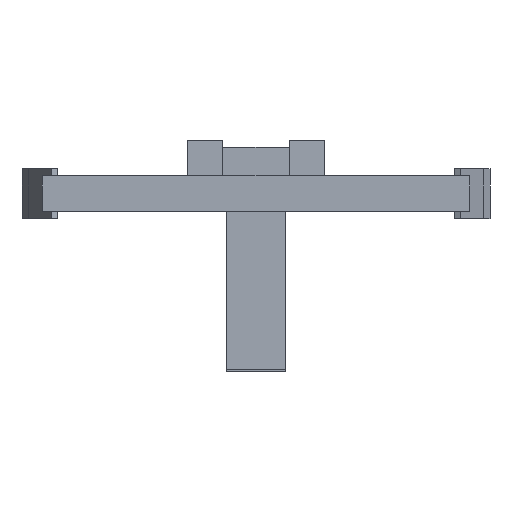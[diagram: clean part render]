
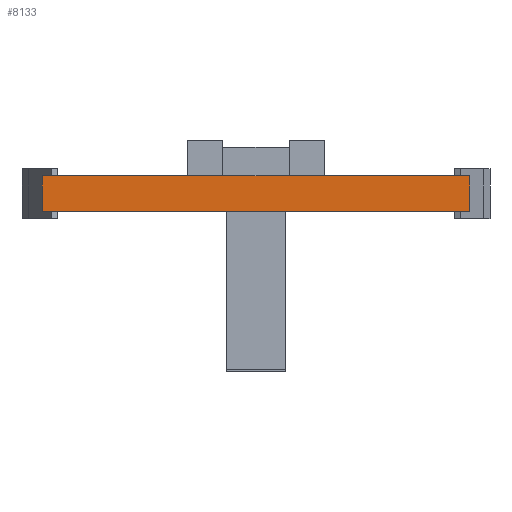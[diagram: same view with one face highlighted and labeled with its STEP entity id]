
A CAD part, front view. The second image highlights one B-rep face of the part: STEP entity #8133.
In plain terms, the highlighted planar face has unit normal (0, -1, 0).
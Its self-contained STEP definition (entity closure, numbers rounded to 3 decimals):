
#5=DIRECTION('',(1.,0.,0.));
#6=VECTOR('',#5,56.);
#7=CARTESIAN_POINT('',(-28.,125.,0.));
#8=LINE('',#7,#6);
#1109=DIRECTION('',(-1.,0.,0.));
#1110=VECTOR('',#1109,152.);
#1111=CARTESIAN_POINT('',(-28.,125.,0.));
#1112=LINE('',#1111,#1110);
#1137=DIRECTION('',(-1.,0.,0.));
#1138=VECTOR('',#1137,152.);
#1139=CARTESIAN_POINT('',(180.,125.,0.));
#1140=LINE('',#1139,#1138);
#1181=DIRECTION('',(0.,0.,-1.));
#1182=VECTOR('',#1181,30.);
#1183=CARTESIAN_POINT('',(-180.,125.,0.));
#1184=LINE('',#1183,#1182);
#1201=DIRECTION('',(-1.,0.,0.));
#1202=VECTOR('',#1201,360.);
#1203=CARTESIAN_POINT('',(180.,125.,-30.));
#1204=LINE('',#1203,#1202);
#1233=DIRECTION('',(0.,0.,-1.));
#1234=VECTOR('',#1233,30.);
#1235=CARTESIAN_POINT('',(180.,125.,0.));
#1236=LINE('',#1235,#1234);
#4969=CARTESIAN_POINT('',(180.,125.,-30.));
#4970=CARTESIAN_POINT('',(-180.,125.,-30.));
#4971=VERTEX_POINT('',#4969);
#4972=VERTEX_POINT('',#4970);
#4977=CARTESIAN_POINT('',(180.,125.,0.));
#4978=VERTEX_POINT('',#4977);
#4979=CARTESIAN_POINT('',(-180.,125.,0.));
#4980=VERTEX_POINT('',#4979);
#4985=CARTESIAN_POINT('',(28.,125.,0.));
#4986=VERTEX_POINT('',#4985);
#5035=CARTESIAN_POINT('',(-28.,125.,0.));
#5036=VERTEX_POINT('',#5035);
#8119=CARTESIAN_POINT('',(180.,125.,0.));
#8120=DIRECTION('',(0.,-1.,0.));
#8121=DIRECTION('',(-1.,0.,0.));
#8122=AXIS2_PLACEMENT_3D('',#8119,#8120,#8121);
#8123=PLANE('',#8122);
#8124=ORIENTED_EDGE('',*,*,#7979,.F.);
#8126=ORIENTED_EDGE('',*,*,#8125,.T.);
#8127=ORIENTED_EDGE('',*,*,#8101,.T.);
#8128=ORIENTED_EDGE('',*,*,#8085,.F.);
#8129=ORIENTED_EDGE('',*,*,#7957,.F.);
#8130=ORIENTED_EDGE('',*,*,#6588,.T.);
#8131=EDGE_LOOP('',(#8124,#8126,#8127,#8128,#8129,#8130));
#8132=FACE_OUTER_BOUND('',#8131,.F.);
#8133=ADVANCED_FACE('',(#8132),#8123,.T.);
#6588=EDGE_CURVE('',#5036,#4986,#8,.T.);
#7957=EDGE_CURVE('',#5036,#4980,#1112,.T.);
#7979=EDGE_CURVE('',#4978,#4986,#1140,.T.);
#8085=EDGE_CURVE('',#4980,#4972,#1184,.T.);
#8101=EDGE_CURVE('',#4971,#4972,#1204,.T.);
#8125=EDGE_CURVE('',#4978,#4971,#1236,.T.);
